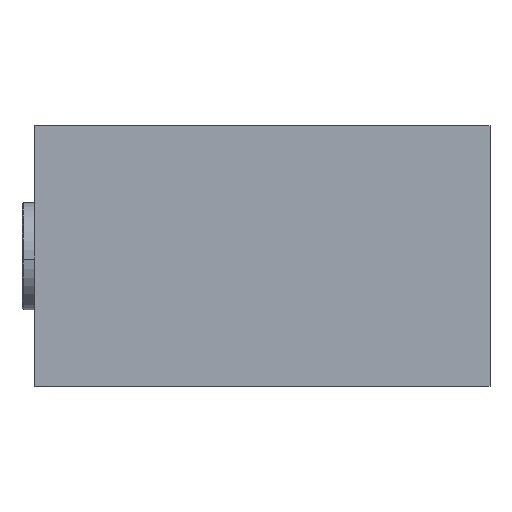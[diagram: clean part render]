
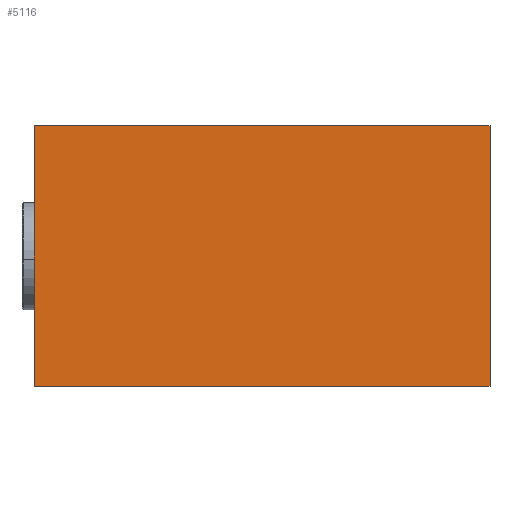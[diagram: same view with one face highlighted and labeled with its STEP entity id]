
A CAD part, left-side view. The second image highlights one B-rep face of the part: STEP entity #5116.
In plain terms, the highlighted planar face has unit normal (-1, 0, 0).
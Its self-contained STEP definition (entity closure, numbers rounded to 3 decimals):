
#685 = CARTESIAN_POINT ( 'NONE',  ( -15., 0., 20. ) ) ;
#712 = PLANE ( 'NONE',  #1421 ) ;
#977 = VECTOR ( 'NONE', #5365, 1000. ) ;
#1360 = DIRECTION ( 'NONE',  ( -1., 0., 0. ) ) ;
#1421 = AXIS2_PLACEMENT_3D ( 'NONE', #685, #1360, #2845 ) ;
#1827 = CARTESIAN_POINT ( 'NONE',  ( -15., -17.5, 20. ) ) ;
#1845 = LINE ( 'NONE', #1827, #3871 ) ;
#1975 = VERTEX_POINT ( 'NONE', #2699 ) ;
#2419 = CARTESIAN_POINT ( 'NONE',  ( -15., 0., 20. ) ) ;
#2699 = CARTESIAN_POINT ( 'NONE',  ( -15., 17.5, 20. ) ) ;
#2821 = ORIENTED_EDGE ( 'NONE', *, *, #3382, .F. ) ;
#2845 = DIRECTION ( 'NONE',  ( 0., 0., 1. ) ) ;
#3049 = CARTESIAN_POINT ( 'NONE',  ( -15., 17.5, 0. ) ) ;
#3151 = VECTOR ( 'NONE', #5936, 1000. ) ;
#3382 = EDGE_CURVE ( 'NONE', #6674, #4359, #1845, .T. ) ;
#3422 = ORIENTED_EDGE ( 'NONE', *, *, #4578, .T. ) ;
#3483 = CARTESIAN_POINT ( 'NONE',  ( -15., -17.5, 0. ) ) ;
#3600 = VECTOR ( 'NONE', #8454, 1000. ) ;
#3656 = CARTESIAN_POINT ( 'NONE',  ( -15., 17.5, 20. ) ) ;
#3691 = EDGE_LOOP ( 'NONE', ( #5711, #2821, #7714, #3422 ) ) ;
#3703 = LINE ( 'NONE', #8964, #3600 ) ;
#3871 = VECTOR ( 'NONE', #7576, 1000. ) ;
#4359 = VERTEX_POINT ( 'NONE', #3483 ) ;
#4578 = EDGE_CURVE ( 'NONE', #1975, #5828, #9059, .T. ) ;
#5116 = ADVANCED_FACE ( 'NONE', ( #7534 ), #712, .T. ) ;
#5365 = DIRECTION ( 'NONE',  ( 0., 1., 0. ) ) ;
#5711 = ORIENTED_EDGE ( 'NONE', *, *, #6861, .F. ) ;
#5828 = VERTEX_POINT ( 'NONE', #3049 ) ;
#5936 = DIRECTION ( 'NONE',  ( 0., 0., -1. ) ) ;
#6674 = VERTEX_POINT ( 'NONE', #9001 ) ;
#6861 = EDGE_CURVE ( 'NONE', #4359, #5828, #3703, .T. ) ;
#6891 = LINE ( 'NONE', #2419, #977 ) ;
#7534 = FACE_OUTER_BOUND ( 'NONE', #3691, .T. ) ;
#7576 = DIRECTION ( 'NONE',  ( 0., 0., -1. ) ) ;
#7714 = ORIENTED_EDGE ( 'NONE', *, *, #8189, .T. ) ;
#8189 = EDGE_CURVE ( 'NONE', #6674, #1975, #6891, .T. ) ;
#8454 = DIRECTION ( 'NONE',  ( 0., 1., 0. ) ) ;
#8964 = CARTESIAN_POINT ( 'NONE',  ( -15., 0., 0. ) ) ;
#9001 = CARTESIAN_POINT ( 'NONE',  ( -15., -17.5, 20. ) ) ;
#9059 = LINE ( 'NONE', #3656, #3151 ) ;
